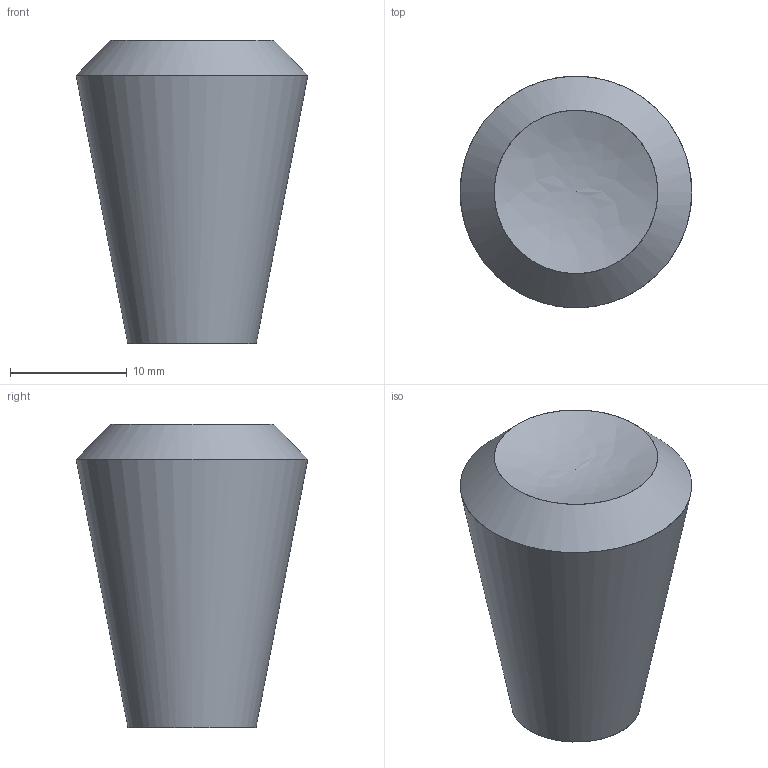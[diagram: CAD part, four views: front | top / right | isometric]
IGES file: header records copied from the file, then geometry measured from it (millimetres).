
Start section: C
Global section: file name: 8027.igs; native system: By Siemens PLM Incorporated; preprocessor: XPlus GENERIC/IGES 16.0.42; author: Author; organization: Title; date: 20231128.135005; units: millimetre
Bounding box: 19.85 x 19.84 x 26 mm (x, y, z)
Surface area: 1804.3 mm2 (no closed solid volume)
Topology: 0 solids, 0 shells, 6 faces, 29 edges, 28 vertices
Faces by surface type: bspline 6
